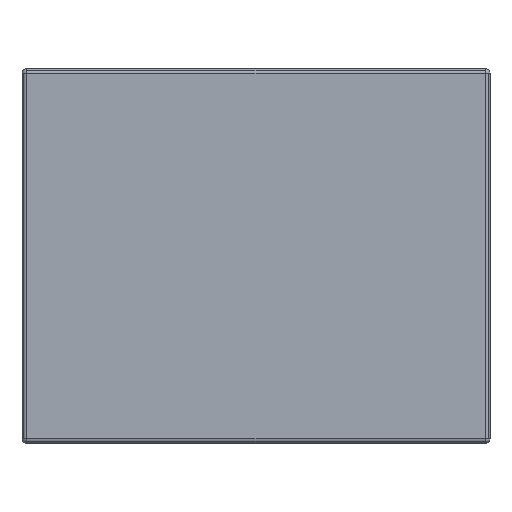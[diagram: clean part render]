
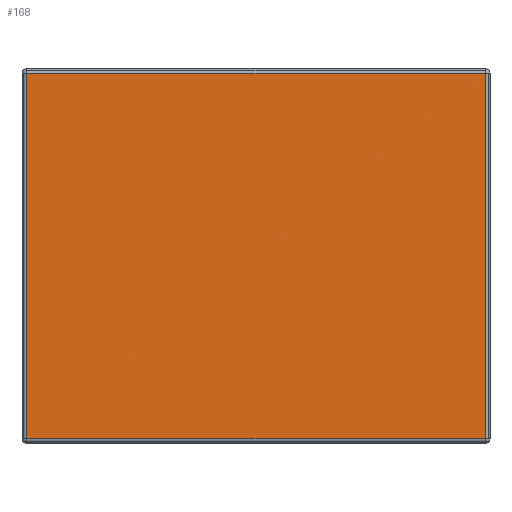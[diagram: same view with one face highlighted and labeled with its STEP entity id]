
A CAD part, front view. The second image highlights one B-rep face of the part: STEP entity #168.
In plain terms, the highlighted planar face has unit normal (0, -1, 0).
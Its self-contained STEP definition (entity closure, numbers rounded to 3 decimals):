
#168=ADVANCED_FACE('',(#368),#369,.T.);
#368=FACE_OUTER_BOUND('',#600,.T.);
#369=PLANE('',#601);
#600=EDGE_LOOP('',(#1299,#1300,#1301,#1302));
#601=AXIS2_PLACEMENT_3D('',#1303,#1304,#1305);
#1299=ORIENTED_EDGE('',*,*,#1764,.F.);
#1300=ORIENTED_EDGE('',*,*,#1762,.F.);
#1301=ORIENTED_EDGE('',*,*,#1621,.T.);
#1302=ORIENTED_EDGE('',*,*,#1673,.T.);
#1303=CARTESIAN_POINT('',(0.0,-63.3,100.0));
#1304=DIRECTION('',(0.0,-1.0,0.0));
#1305=DIRECTION('',(1.0,0.0,0.0));
#1621=EDGE_CURVE('',#1949,#1947,#1950,.T.);
#1673=EDGE_CURVE('',#1947,#2044,#2046,.T.);
#1762=EDGE_CURVE('',#1949,#2164,#2170,.T.);
#1764=EDGE_CURVE('',#2164,#2044,#2172,.T.);
#1947=VERTEX_POINT('',#2430);
#1949=VERTEX_POINT('',#2432);
#1950=LINE('',#2433,#2434);
#2044=VERTEX_POINT('',#2553);
#2046=LINE('',#2555,#2556);
#2164=VERTEX_POINT('',#2701);
#2170=LINE('',#2708,#2709);
#2172=LINE('',#2712,#2713);
#2430=CARTESIAN_POINT('',(-98.0,-63.3,-78.0));
#2432=CARTESIAN_POINT('',(-98.0,-63.3,78.0));
#2433=CARTESIAN_POINT('',(-98.0,-63.3,-50.0));
#2434=VECTOR('',#2964,200.0);
#2553=CARTESIAN_POINT('',(98.0,-63.3,-78.0));
#2555=CARTESIAN_POINT('',(0.,-63.3,-78.0));
#2556=VECTOR('',#3068,202.0);
#2701=CARTESIAN_POINT('',(98.0,-63.3,78.0));
#2708=CARTESIAN_POINT('',(0.,-63.3,78.0));
#2709=VECTOR('',#3277,202.0);
#2712=CARTESIAN_POINT('',(98.0,-63.3,50.0));
#2713=VECTOR('',#3279,200.0);
#2964=DIRECTION('',(0.0,0.0,-1.0));
#3068=DIRECTION('',(1.0,0.0,0.0));
#3277=DIRECTION('',(1.0,0.0,0.0));
#3279=DIRECTION('',(0.0,0.0,-1.0));
